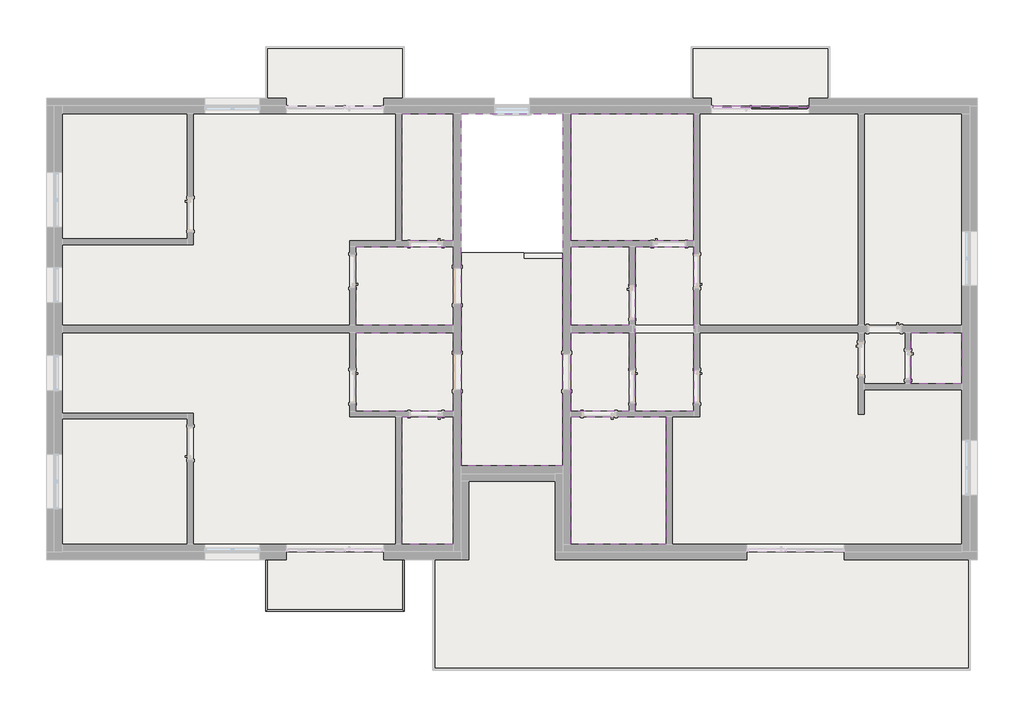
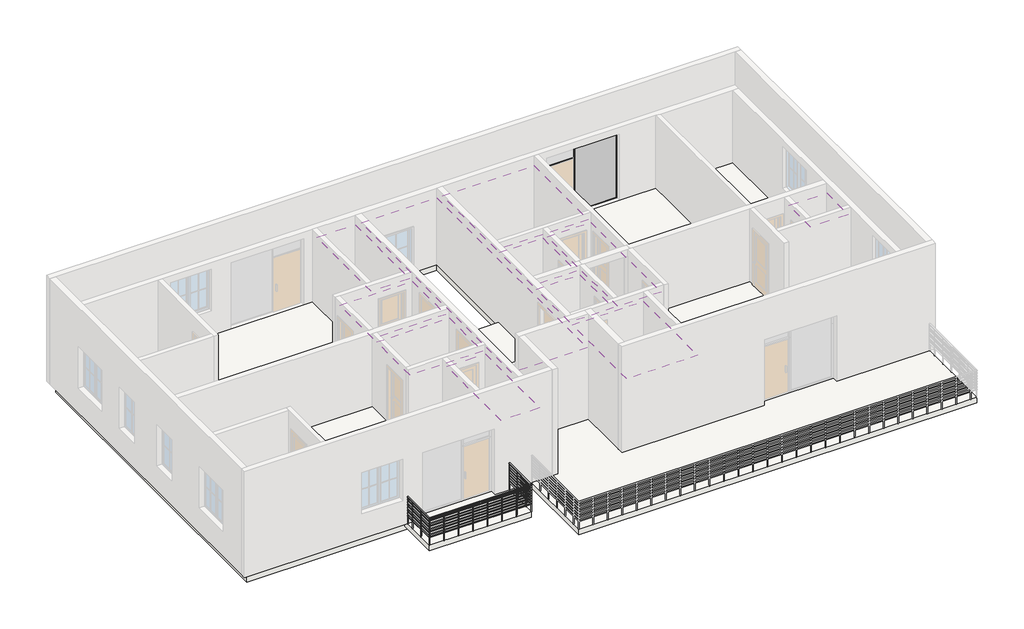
# One storey, part 3 of 6: 24 slabs, 11 coverings, 7 members, 1 plate, 1 railing.
"""IFC4 building model written with IfcOpenShell, lengths in millimetres."""

from ifc_helpers import new_model, si_unit, point, frame, frame_2d, origin, place, context, project, spatial, polyline, circle_curve, ellipse_curve, trimmed, segment, composite_curve, outline, extrude, transform, mapped, element, save
from ifc_brep_helpers import plane_surface, cylinder_surface, advanced_brep
from components import member_50x50_mm_0b25df5f, member_50x50_mm_d57dae31, member_50x50_mm_7f53e2b4, member_50x50_mm_58209b6d, member_50x50_mm_521fa47b, member_50x50_mm_0f4eb3cd, plate_9c89f185

model = new_model("IFC4")

# Units and contexts
model_context = context("Model", 3, world=origin())
ifc_project = project(units=[si_unit("LENGTHUNIT", "METRE", prefix="MILLI")], contexts=[model_context])

# Site, building, storey
site = spatial("IfcSite", under=ifc_project)
building = spatial("IfcBuilding", under=site)
storey = spatial("IfcBuildingStorey", under=building, Name="Podlaží 2", Elevation=3000.0)

# Coverings
placement = place(None, origin())
element("IfcCovering", 1, ObjectType="Mřížka 600 x 600mm", at=placement, inside=storey, context=model_context, shape_type="SweptSolid", body=[
    extrude(outline(polyline([(8675.0, 13500.0), (10000.0, 13500.0), (10000.0, 10250.0), (8675.0, 10250.0), (8675.0, 13500.0)])), frame((0.0, 0.0, 5300.0), z_axis=(0.0, 0.0, 1.0), x_axis=(1.0, 0.0, 0.0)), (0.0, 0.0, 1.0), 52.0),
])
element("IfcCovering", 2, ObjectType="Mřížka 600 x 600mm", at=placement, inside=storey, context=model_context, shape_type="SweptSolid", body=[
    extrude(outline(polyline([(7500.0, 10100.0), (10000.0, 10100.0), (10000.0, 8100.0), (7500.0, 8100.0), (7500.0, 10100.0)])), frame((0.0, 0.0, 5300.0), z_axis=(0.0, 0.0, 1.0), x_axis=(1.0, 0.0, 0.0)), (0.0, 0.0, 1.0), 52.0),
])
element("IfcCovering", 3, ObjectType="Mřížka 600 x 600mm", at=placement, inside=storey, context=model_context, shape_type="SweptSolid", body=[
    extrude(outline(polyline([(10000.0, 7900.0), (10000.0, 5900.0), (7500.0, 5900.0), (7500.0, 7900.0), (10000.0, 7900.0)])), frame((0.0, 0.0, 5300.0), z_axis=(0.0, 0.0, 1.0), x_axis=(1.0, 0.0, 0.0)), (0.0, 0.0, 1.0), 52.0),
])
element("IfcCovering", 4, ObjectType="Mřížka 600 x 600mm", at=placement, inside=storey, context=model_context, shape_type="SweptSolid", body=[
    extrude(outline(polyline([(8675.0, 5750.0), (10000.0, 5750.0), (10000.0, 2500.0), (8675.0, 2500.0), (8675.0, 5750.0)])), frame((0.0, 0.0, 5300.0), z_axis=(0.0, 0.0, 1.0), x_axis=(1.0, 0.0, 0.0)), (0.0, 0.0, 1.0), 52.0),
])
element("IfcCovering", 5, ObjectType="Mřížka 600 x 600mm", at=placement, inside=storey, context=model_context, shape_type="SweptSolid", body=[
    extrude(outline(polyline([(13000.0, 13500.0), (16150.0, 13500.0), (16150.0, 10250.0), (13000.0, 10250.0), (13000.0, 13500.0)])), frame((0.0, 0.0, 5300.0), z_axis=(0.0, 0.0, 1.0), x_axis=(1.0, 0.0, 0.0)), (0.0, 0.0, 1.0), 52.0),
])
element("IfcCovering", 6, ObjectType="Mřížka 600 x 600mm", at=placement, inside=storey, context=model_context, shape_type="SweptSolid", body=[
    extrude(outline(polyline([(14500.0, 8100.0), (13000.0, 8100.0), (13000.0, 10100.0), (14500.0, 10100.0), (14500.0, 8100.0)])), frame((0.0, 0.0, 5300.0), z_axis=(0.0, 0.0, 1.0), x_axis=(1.0, 0.0, 0.0)), (0.0, 0.0, 1.0), 52.0),
])
element("IfcCovering", 7, ObjectType="Mřížka 600 x 600mm", at=placement, inside=storey, context=model_context, shape_type="SweptSolid", body=[
    extrude(outline(polyline([(14500.0, 5900.0), (13000.0, 5900.0), (13000.0, 7900.0), (14500.0, 7900.0), (14500.0, 5900.0)])), frame((0.0, 0.0, 5300.0), z_axis=(0.0, 0.0, 1.0), x_axis=(1.0, 0.0, 0.0)), (0.0, 0.0, 1.0), 52.0),
])
element("IfcCovering", 8, ObjectType="Mřížka 600 x 600mm", at=placement, inside=storey, context=model_context, shape_type="SweptSolid", body=[
    extrude(outline(polyline([(15450.0, 2500.0), (13000.0, 2500.0), (13000.0, 5750.0), (15450.0, 5750.0), (15450.0, 2500.0)])), frame((0.0, 0.0, 5300.0), z_axis=(0.0, 0.0, 1.0), x_axis=(1.0, 0.0, 0.0)), (0.0, 0.0, 1.0), 52.0),
])
element("IfcCovering", 9, ObjectType="Mřížka 600 x 600mm", at=placement, inside=storey, context=model_context, shape_type="SweptSolid", body=[
    extrude(outline(polyline([(23000.0, 7900.0), (23000.0, 6600.0), (21700.0, 6600.0), (21700.0, 7900.0), (23000.0, 7900.0)])), frame((0.0, 0.0, 5300.0), z_axis=(0.0, 0.0, 1.0), x_axis=(1.0, 0.0, 0.0)), (0.0, 0.0, 1.0), 52.0),
])
element("IfcCovering", 10, ObjectType="Mřížka 600 x 600mm", at=placement, inside=storey, context=model_context, shape_type="SweptSolid", body=[
    extrude(outline(polyline([(10200.0, 4500.0), (10200.0, 13500.0), (12800.0, 13500.0), (12800.0, 4500.0), (10200.0, 4500.0)])), frame((0.0, 0.0, 5300.0), z_axis=(0.0, 0.0, 1.0), x_axis=(1.0, 0.0, 0.0)), (0.0, 0.0, 1.0), 52.0),
])
element("IfcCovering", 11, ObjectType="Mřížka 600 x 600mm", at=placement, inside=storey, context=model_context, shape_type="SweptSolid", body=[
    extrude(outline(polyline([(16150.0, 10100.0), (16150.0, 5900.0), (14650.0, 5900.0), (14650.0, 10100.0), (16150.0, 10100.0)])), frame((0.0, 0.0, 5300.0), z_axis=(0.0, 0.0, 1.0), x_axis=(1.0, 0.0, 0.0)), (0.0, 0.0, 1.0), 52.0),
])

# Members
member_50x50_mm_shape = member_50x50_mm_0b25df5f(model_context)
element("IfcMember", 12, ObjectType="Obdélníková příčel : 50x50 mm", at=placement, inside=storey, context=model_context, shape_type="MappedRepresentation", body=[
    mapped(member_50x50_mm_shape, transform((19050.0, 13675.0, 5400.0), x_axis=(0.0, 0.0, 1.0), y_axis=(0.0, -1.0, 0.0), z_axis=(1.0, 0.0, 0.0))),
])
member_50x50_mm_2_shape = member_50x50_mm_d57dae31(model_context)
element("IfcMember", 13, ObjectType="Obdélníková příčel : 50x50 mm", at=placement, inside=storey, context=model_context, shape_type="MappedRepresentation", body=[
    mapped(member_50x50_mm_2_shape, transform((17575.0, 13675.0, 5000.0), x_axis=(0.0, 0.0, 1.0), y_axis=(0.0, -1.0, 0.0), z_axis=(1.0, 0.0, 0.0))),
])
element("IfcMember", 14, ObjectType="Obdélníková příčel : 50x50 mm", at=placement, inside=storey, context=model_context, shape_type="MappedRepresentation", body=[
    mapped(member_50x50_mm_shape, transform((17625.0, 13675.0, 3000.0), x_axis=(0.0, 0.0, -1.0), y_axis=(0.0, -1.0, 0.0), z_axis=(-1.0, 0.0, 0.0))),
])
member_50x50_mm_3_shape = member_50x50_mm_7f53e2b4(model_context)
element("IfcMember", 15, ObjectType="Obdélníková příčel : 50x50 mm", at=placement, inside=storey, context=model_context, shape_type="MappedRepresentation", body=[
    mapped(member_50x50_mm_3_shape, transform((17575.0, 13675.0, 5400.0), x_axis=(0.0, 0.0, 1.0), y_axis=(0.0, -1.0, 0.0), z_axis=(1.0, 0.0, 0.0))),
])
member_50x50_mm_4_shape = member_50x50_mm_58209b6d(model_context)
element("IfcMember", 16, ObjectType="Obdélníková příčel : 50x50 mm", at=placement, inside=storey, context=model_context, shape_type="MappedRepresentation", body=[
    mapped(member_50x50_mm_4_shape, transform((17600.0, 13675.0, 5000.0), x_axis=(1.0, 0.0, 0.0), y_axis=(0.0, -1.0, 0.0), z_axis=(0.0, 0.0, -1.0))),
])
member_50x50_mm_5_shape = member_50x50_mm_521fa47b(model_context)
element("IfcMember", 17, ObjectType="Obdélníková příčel : 50x50 mm", at=placement, inside=storey, context=model_context, shape_type="MappedRepresentation", body=[
    mapped(member_50x50_mm_5_shape, transform((19100.0, 13675.0, 3000.0), x_axis=(1.0, 0.0, 0.0), y_axis=(0.0, -1.0, 0.0), z_axis=(0.0, 0.0, -1.0))),
])
member_50x50_mm_6_shape = member_50x50_mm_0f4eb3cd(model_context)
element("IfcMember", 18, ObjectType="Obdélníková příčel : 50x50 mm", at=placement, inside=storey, context=model_context, shape_type="MappedRepresentation", body=[
    mapped(member_50x50_mm_6_shape, transform((19100.0, 13675.0, 5000.0), x_axis=(1.0, 0.0, 0.0), y_axis=(0.0, -1.0, 0.0), z_axis=(0.0, 0.0, -1.0))),
])

# Plate
plate_shape = plate_9c89f185(model_context)
element("IfcPlate", 19, ObjectType="Systémový panel : Zasklené", at=placement, inside=storey, context=model_context, shape_type="MappedRepresentation", body=[
    mapped(plate_shape, transform((18337.5, 13675.0, 3050.0), x_axis=(1.0, 0.0, 0.0), y_axis=(0.0, 1.0, 0.0), z_axis=(0.0, 0.0, 1.0))),
])

# Railing
element("IfcRailing", 20, ObjectType="1000 mm trubky", at=placement, inside=storey, context=model_context, shape_type="SolidModel", body=[
    advanced_brep(
    [(8705.0, 2100.0, 3980.0), (8745.0, 2100.0, 3980.0), (8705.0, 820.0, 3980.0), (8745.0, 780.0, 3980.0), (5245.0, 820.0, 3980.0), (5205.0, 780.0, 3980.0), (5245.0, 2100.0, 3980.0), (5205.0, 2100.0, 3980.0)],
    [
        (0, 1, circle_curve(frame((8725.0, 2100.0, 3980.0), z_axis=(0.0, 1.0, 0.0), x_axis=(1.0, 0.0, 0.0)), 20.0)),
        (1, 0, circle_curve(frame((8725.0, 2100.0, 3980.0), z_axis=(0.0, 1.0, 0.0), x_axis=(1.0, 0.0, 0.0)), 20.0)),
        (0, 2),
        (2, 3, ellipse_curve(frame((8725.0, 800.0, 3980.0), z_axis=(0.7071067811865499, 0.7071067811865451, 0.0), x_axis=(-0.7071067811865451, 0.7071067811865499, 0.0)), 28.2842712, 20.0)),
        (3, 1),
        (3, 2, ellipse_curve(frame((8725.0, 800.0, 3980.0), z_axis=(0.7071067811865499, 0.7071067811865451, 0.0), x_axis=(-0.7071067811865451, 0.7071067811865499, 0.0)), 28.2842712, 20.0)),
        (2, 4),
        (4, 5, ellipse_curve(frame((5225.0, 800.0, 3980.0), z_axis=(0.7071067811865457, -0.7071067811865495, 0.0), x_axis=(0.7071067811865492, 0.7071067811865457, 0.0)), 28.2842712, 20.0)),
        (5, 3),
        (5, 4, ellipse_curve(frame((5225.0, 800.0, 3980.0), z_axis=(0.7071067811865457, -0.7071067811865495, 0.0), x_axis=(0.7071067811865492, 0.7071067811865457, 0.0)), 28.2842712, 20.0)),
        (6, 7, circle_curve(frame((5225.0, 2100.0, 3980.0), z_axis=(0.0, 1.0, 0.0), x_axis=(-1.0, 0.0, 0.0)), 20.0)),
        (7, 6, circle_curve(frame((5225.0, 2100.0, 3980.0), z_axis=(0.0, 1.0, 0.0), x_axis=(-1.0, 0.0, 0.0)), 20.0)),
        (4, 6),
        (7, 5),
    ],
    [
        plane_surface(frame((8725.0, 2100.0, 4000.0), z_axis=(0.0, 1.0, 0.0), x_axis=(0.0, 0.0, -1.0))),
        cylinder_surface(frame((8725.0, 2100.0, 3980.0), z_axis=(0.0, 1.0, 0.0), x_axis=(1.0, 0.0, 0.0)), 20.0),
        cylinder_surface(frame((8725.0, 800.0, 3980.0), z_axis=(1.0, 0.0, 0.0), x_axis=(0.0, -1.0, 0.0)), 20.0),
        plane_surface(frame((5225.0, 2100.0, 4000.0), z_axis=(0.0, 1.0, 0.0), x_axis=(0.0, 0.0, 1.0))),
        cylinder_surface(frame((5225.0, 800.0, 3980.0), z_axis=(0.0, -1.0, 0.0), x_axis=(-1.0, 0.0, 0.0)), 20.0),
    ],
    [
        (0, [[1, 2]]),
        (1, [[-1, 3, 4, 5]]),
        (1, [[-2, -5, 6, -3]]),
        (2, [[-4, 7, 8, 9]]),
        (2, [[-6, -9, 10, -7]]),
        (3, [[11, 12]]),
        (4, [[-8, 13, -12, 14]]),
        (4, [[-10, -14, -11, -13]]),
    ],
),
    advanced_brep(
    [(8710.0, 2100.0, 3885.0), (8740.0, 2100.0, 3885.0), (8740.0, 785.0, 3885.0), (8710.0, 815.0, 3885.0), (5210.0, 785.0, 3885.0), (5240.0, 815.0, 3885.0), (5240.0, 2100.0, 3885.0), (5210.0, 2100.0, 3885.0)],
    [
        (0, 1, circle_curve(frame((8725.0, 2100.0, 3885.0), z_axis=(0.0, 1.0, 0.0), x_axis=(1.0, 0.0, 0.0)), 15.0)),
        (1, 0, circle_curve(frame((8725.0, 2100.0, 3885.0), z_axis=(0.0, 1.0, 0.0), x_axis=(1.0, 0.0, 0.0)), 15.0)),
        (1, 2),
        (2, 3, ellipse_curve(frame((8725.0, 800.0, 3885.0), z_axis=(0.7071067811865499, 0.7071067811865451, 0.0), x_axis=(-0.7071067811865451, 0.7071067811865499, 0.0)), 21.2132034, 15.0)),
        (3, 0),
        (3, 2, ellipse_curve(frame((8725.0, 800.0, 3885.0), z_axis=(0.7071067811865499, 0.7071067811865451, 0.0), x_axis=(-0.7071067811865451, 0.7071067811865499, 0.0)), 21.2132034, 15.0)),
        (2, 4),
        (4, 5, ellipse_curve(frame((5225.0, 800.0, 3885.0), z_axis=(0.7071067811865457, -0.7071067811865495, 0.0), x_axis=(0.7071067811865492, 0.7071067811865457, 0.0)), 21.2132034, 15.0)),
        (5, 3),
        (5, 4, ellipse_curve(frame((5225.0, 800.0, 3885.0), z_axis=(0.7071067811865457, -0.7071067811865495, 0.0), x_axis=(0.7071067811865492, 0.7071067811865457, 0.0)), 21.2132034, 15.0)),
        (6, 7, circle_curve(frame((5225.0, 2100.0, 3885.0), z_axis=(0.0, 1.0, 0.0), x_axis=(-1.0, 0.0, 0.0)), 15.0)),
        (7, 6, circle_curve(frame((5225.0, 2100.0, 3885.0), z_axis=(0.0, 1.0, 0.0), x_axis=(-1.0, 0.0, 0.0)), 15.0)),
        (4, 7),
        (6, 5),
    ],
    [
        plane_surface(frame((8725.0, 2100.0, 3900.0), z_axis=(0.0, 1.0, 0.0), x_axis=(0.0, 0.0, -1.0))),
        cylinder_surface(frame((8725.0, 2100.0, 3885.0), z_axis=(0.0, 1.0, 0.0), x_axis=(1.0, 0.0, 0.0)), 15.0),
        cylinder_surface(frame((8725.0, 800.0, 3885.0), z_axis=(1.0, 0.0, 0.0), x_axis=(0.0, -1.0, 0.0)), 15.0),
        plane_surface(frame((5225.0, 2100.0, 3900.0), z_axis=(0.0, 1.0, 0.0), x_axis=(0.0, 0.0, 1.0))),
        cylinder_surface(frame((5225.0, 800.0, 3885.0), z_axis=(0.0, -1.0, 0.0), x_axis=(-1.0, 0.0, 0.0)), 15.0),
    ],
    [
        (0, [[1, 2]]),
        (1, [[-2, 3, 4, 5]]),
        (1, [[-1, -5, 6, -3]]),
        (2, [[-4, 7, 8, 9]]),
        (2, [[-6, -9, 10, -7]]),
        (3, [[11, 12]]),
        (4, [[-8, 13, -11, 14]]),
        (4, [[-10, -14, -12, -13]]),
    ],
),
    advanced_brep(
    [(8710.0, 2100.0, 3785.0), (8740.0, 2100.0, 3785.0), (8740.0, 785.0, 3785.0), (8710.0, 815.0, 3785.0), (5210.0, 785.0, 3785.0), (5240.0, 815.0, 3785.0), (5240.0, 2100.0, 3785.0), (5210.0, 2100.0, 3785.0)],
    [
        (0, 1, circle_curve(frame((8725.0, 2100.0, 3785.0), z_axis=(0.0, 1.0, 0.0), x_axis=(1.0, 0.0, 0.0)), 15.0)),
        (1, 0, circle_curve(frame((8725.0, 2100.0, 3785.0), z_axis=(0.0, 1.0, 0.0), x_axis=(1.0, 0.0, 0.0)), 15.0)),
        (1, 2),
        (2, 3, ellipse_curve(frame((8725.0, 800.0, 3785.0), z_axis=(0.7071067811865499, 0.7071067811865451, 0.0), x_axis=(-0.7071067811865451, 0.7071067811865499, 0.0)), 21.2132034, 15.0)),
        (3, 0),
        (3, 2, ellipse_curve(frame((8725.0, 800.0, 3785.0), z_axis=(0.7071067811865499, 0.7071067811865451, 0.0), x_axis=(-0.7071067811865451, 0.7071067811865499, 0.0)), 21.2132034, 15.0)),
        (2, 4),
        (4, 5, ellipse_curve(frame((5225.0, 800.0, 3785.0), z_axis=(0.7071067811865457, -0.7071067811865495, 0.0), x_axis=(0.7071067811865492, 0.7071067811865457, 0.0)), 21.2132034, 15.0)),
        (5, 3),
        (5, 4, ellipse_curve(frame((5225.0, 800.0, 3785.0), z_axis=(0.7071067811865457, -0.7071067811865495, 0.0), x_axis=(0.7071067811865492, 0.7071067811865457, 0.0)), 21.2132034, 15.0)),
        (6, 7, circle_curve(frame((5225.0, 2100.0, 3785.0), z_axis=(0.0, 1.0, 0.0), x_axis=(-1.0, 0.0, 0.0)), 15.0)),
        (7, 6, circle_curve(frame((5225.0, 2100.0, 3785.0), z_axis=(0.0, 1.0, 0.0), x_axis=(-1.0, 0.0, 0.0)), 15.0)),
        (4, 7),
        (6, 5),
    ],
    [
        plane_surface(frame((8725.0, 2100.0, 3800.0), z_axis=(0.0, 1.0, 0.0), x_axis=(0.0, 0.0, -1.0))),
        cylinder_surface(frame((8725.0, 2100.0, 3785.0), z_axis=(0.0, 1.0, 0.0), x_axis=(1.0, 0.0, 0.0)), 15.0),
        cylinder_surface(frame((8725.0, 800.0, 3785.0), z_axis=(1.0, 0.0, 0.0), x_axis=(0.0, -1.0, 0.0)), 15.0),
        plane_surface(frame((5225.0, 2100.0, 3800.0), z_axis=(0.0, 1.0, 0.0), x_axis=(0.0, 0.0, 1.0))),
        cylinder_surface(frame((5225.0, 800.0, 3785.0), z_axis=(0.0, -1.0, 0.0), x_axis=(-1.0, 0.0, 0.0)), 15.0),
    ],
    [
        (0, [[1, 2]]),
        (1, [[-2, 3, 4, 5]]),
        (1, [[-1, -5, 6, -3]]),
        (2, [[-4, 7, 8, 9]]),
        (2, [[-6, -9, 10, -7]]),
        (3, [[11, 12]]),
        (4, [[-8, 13, -11, 14]]),
        (4, [[-10, -14, -12, -13]]),
    ],
),
    advanced_brep(
    [(8710.0, 2100.0, 3685.0), (8740.0, 2100.0, 3685.0), (8740.0, 785.0, 3685.0), (8710.0, 815.0, 3685.0), (5210.0, 785.0, 3685.0), (5240.0, 815.0, 3685.0), (5240.0, 2100.0, 3685.0), (5210.0, 2100.0, 3685.0)],
    [
        (0, 1, circle_curve(frame((8725.0, 2100.0, 3685.0), z_axis=(0.0, 1.0, 0.0), x_axis=(1.0, 0.0, 0.0)), 15.0)),
        (1, 0, circle_curve(frame((8725.0, 2100.0, 3685.0), z_axis=(0.0, 1.0, 0.0), x_axis=(1.0, 0.0, 0.0)), 15.0)),
        (1, 2),
        (2, 3, ellipse_curve(frame((8725.0, 800.0, 3685.0), z_axis=(0.7071067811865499, 0.7071067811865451, 0.0), x_axis=(-0.7071067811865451, 0.7071067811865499, 0.0)), 21.2132034, 15.0)),
        (3, 0),
        (3, 2, ellipse_curve(frame((8725.0, 800.0, 3685.0), z_axis=(0.7071067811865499, 0.7071067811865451, 0.0), x_axis=(-0.7071067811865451, 0.7071067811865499, 0.0)), 21.2132034, 15.0)),
        (2, 4),
        (4, 5, ellipse_curve(frame((5225.0, 800.0, 3685.0), z_axis=(0.7071067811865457, -0.7071067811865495, 0.0), x_axis=(0.7071067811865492, 0.7071067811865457, 0.0)), 21.2132034, 15.0)),
        (5, 3),
        (5, 4, ellipse_curve(frame((5225.0, 800.0, 3685.0), z_axis=(0.7071067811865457, -0.7071067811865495, 0.0), x_axis=(0.7071067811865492, 0.7071067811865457, 0.0)), 21.2132034, 15.0)),
        (6, 7, circle_curve(frame((5225.0, 2100.0, 3685.0), z_axis=(0.0, 1.0, 0.0), x_axis=(-1.0, 0.0, 0.0)), 15.0)),
        (7, 6, circle_curve(frame((5225.0, 2100.0, 3685.0), z_axis=(0.0, 1.0, 0.0), x_axis=(-1.0, 0.0, 0.0)), 15.0)),
        (4, 7),
        (6, 5),
    ],
    [
        plane_surface(frame((8725.0, 2100.0, 3700.0), z_axis=(0.0, 1.0, 0.0), x_axis=(0.0, 0.0, -1.0))),
        cylinder_surface(frame((8725.0, 2100.0, 3685.0), z_axis=(0.0, 1.0, 0.0), x_axis=(1.0, 0.0, 0.0)), 15.0),
        cylinder_surface(frame((8725.0, 800.0, 3685.0), z_axis=(1.0, 0.0, 0.0), x_axis=(0.0, -1.0, 0.0)), 15.0),
        plane_surface(frame((5225.0, 2100.0, 3700.0), z_axis=(0.0, 1.0, 0.0), x_axis=(0.0, 0.0, 1.0))),
        cylinder_surface(frame((5225.0, 800.0, 3685.0), z_axis=(0.0, -1.0, 0.0), x_axis=(-1.0, 0.0, 0.0)), 15.0),
    ],
    [
        (0, [[1, 2]]),
        (1, [[-2, 3, 4, 5]]),
        (1, [[-1, -5, 6, -3]]),
        (2, [[-4, 7, 8, 9]]),
        (2, [[-6, -9, 10, -7]]),
        (3, [[11, 12]]),
        (4, [[-8, 13, -11, 14]]),
        (4, [[-10, -14, -12, -13]]),
    ],
),
    advanced_brep(
    [(8710.0, 2100.0, 3585.0), (8740.0, 2100.0, 3585.0), (8740.0, 785.0, 3585.0), (8710.0, 815.0, 3585.0), (5210.0, 785.0, 3585.0), (5240.0, 815.0, 3585.0), (5240.0, 2100.0, 3585.0), (5210.0, 2100.0, 3585.0)],
    [
        (0, 1, circle_curve(frame((8725.0, 2100.0, 3585.0), z_axis=(0.0, 1.0, 0.0), x_axis=(1.0, 0.0, 0.0)), 15.0)),
        (1, 0, circle_curve(frame((8725.0, 2100.0, 3585.0), z_axis=(0.0, 1.0, 0.0), x_axis=(1.0, 0.0, 0.0)), 15.0)),
        (1, 2),
        (2, 3, ellipse_curve(frame((8725.0, 800.0, 3585.0), z_axis=(0.7071067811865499, 0.7071067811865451, 0.0), x_axis=(-0.7071067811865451, 0.7071067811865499, 0.0)), 21.2132034, 15.0)),
        (3, 0),
        (3, 2, ellipse_curve(frame((8725.0, 800.0, 3585.0), z_axis=(0.7071067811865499, 0.7071067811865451, 0.0), x_axis=(-0.7071067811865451, 0.7071067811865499, 0.0)), 21.2132034, 15.0)),
        (2, 4),
        (4, 5, ellipse_curve(frame((5225.0, 800.0, 3585.0), z_axis=(0.7071067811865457, -0.7071067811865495, 0.0), x_axis=(0.7071067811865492, 0.7071067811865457, 0.0)), 21.2132034, 15.0)),
        (5, 3),
        (5, 4, ellipse_curve(frame((5225.0, 800.0, 3585.0), z_axis=(0.7071067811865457, -0.7071067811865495, 0.0), x_axis=(0.7071067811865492, 0.7071067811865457, 0.0)), 21.2132034, 15.0)),
        (6, 7, circle_curve(frame((5225.0, 2100.0, 3585.0), z_axis=(0.0, 1.0, 0.0), x_axis=(-1.0, 0.0, 0.0)), 15.0)),
        (7, 6, circle_curve(frame((5225.0, 2100.0, 3585.0), z_axis=(0.0, 1.0, 0.0), x_axis=(-1.0, 0.0, 0.0)), 15.0)),
        (4, 7),
        (6, 5),
    ],
    [
        plane_surface(frame((8725.0, 2100.0, 3600.0), z_axis=(0.0, 1.0, 0.0), x_axis=(0.0, 0.0, -1.0))),
        cylinder_surface(frame((8725.0, 2100.0, 3585.0), z_axis=(0.0, 1.0, 0.0), x_axis=(1.0, 0.0, 0.0)), 15.0),
        cylinder_surface(frame((8725.0, 800.0, 3585.0), z_axis=(1.0, 0.0, 0.0), x_axis=(0.0, -1.0, 0.0)), 15.0),
        plane_surface(frame((5225.0, 2100.0, 3600.0), z_axis=(0.0, 1.0, 0.0), x_axis=(0.0, 0.0, 1.0))),
        cylinder_surface(frame((5225.0, 800.0, 3585.0), z_axis=(0.0, -1.0, 0.0), x_axis=(-1.0, 0.0, 0.0)), 15.0),
    ],
    [
        (0, [[1, 2]]),
        (1, [[-2, 3, 4, 5]]),
        (1, [[-1, -5, 6, -3]]),
        (2, [[-4, 7, 8, 9]]),
        (2, [[-6, -9, 10, -7]]),
        (3, [[11, 12]]),
        (4, [[-8, 13, -11, 14]]),
        (4, [[-10, -14, -12, -13]]),
    ],
),
    advanced_brep(
    [(8710.0, 2100.0, 3485.0), (8740.0, 2100.0, 3485.0), (8740.0, 785.0, 3485.0), (8710.0, 815.0, 3485.0), (5210.0, 785.0, 3485.0), (5240.0, 815.0, 3485.0), (5240.0, 2100.0, 3485.0), (5210.0, 2100.0, 3485.0)],
    [
        (0, 1, circle_curve(frame((8725.0, 2100.0, 3485.0), z_axis=(0.0, 1.0, 0.0), x_axis=(1.0, 0.0, 0.0)), 15.0)),
        (1, 0, circle_curve(frame((8725.0, 2100.0, 3485.0), z_axis=(0.0, 1.0, 0.0), x_axis=(1.0, 0.0, 0.0)), 15.0)),
        (1, 2),
        (2, 3, ellipse_curve(frame((8725.0, 800.0, 3485.0), z_axis=(0.7071067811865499, 0.7071067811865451, 0.0), x_axis=(-0.7071067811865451, 0.7071067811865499, 0.0)), 21.2132034, 15.0)),
        (3, 0),
        (3, 2, ellipse_curve(frame((8725.0, 800.0, 3485.0), z_axis=(0.7071067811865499, 0.7071067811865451, 0.0), x_axis=(-0.7071067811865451, 0.7071067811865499, 0.0)), 21.2132034, 15.0)),
        (2, 4),
        (4, 5, ellipse_curve(frame((5225.0, 800.0, 3485.0), z_axis=(0.7071067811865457, -0.7071067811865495, 0.0), x_axis=(0.7071067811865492, 0.7071067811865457, 0.0)), 21.2132034, 15.0)),
        (5, 3),
        (5, 4, ellipse_curve(frame((5225.0, 800.0, 3485.0), z_axis=(0.7071067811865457, -0.7071067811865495, 0.0), x_axis=(0.7071067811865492, 0.7071067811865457, 0.0)), 21.2132034, 15.0)),
        (6, 7, circle_curve(frame((5225.0, 2100.0, 3485.0), z_axis=(0.0, 1.0, 0.0), x_axis=(-1.0, 0.0, 0.0)), 15.0)),
        (7, 6, circle_curve(frame((5225.0, 2100.0, 3485.0), z_axis=(0.0, 1.0, 0.0), x_axis=(-1.0, 0.0, 0.0)), 15.0)),
        (4, 7),
        (6, 5),
    ],
    [
        plane_surface(frame((8725.0, 2100.0, 3500.0), z_axis=(0.0, 1.0, 0.0), x_axis=(0.0, 0.0, -1.0))),
        cylinder_surface(frame((8725.0, 2100.0, 3485.0), z_axis=(0.0, 1.0, 0.0), x_axis=(1.0, 0.0, 0.0)), 15.0),
        cylinder_surface(frame((8725.0, 800.0, 3485.0), z_axis=(1.0, 0.0, 0.0), x_axis=(0.0, -1.0, 0.0)), 15.0),
        plane_surface(frame((5225.0, 2100.0, 3500.0), z_axis=(0.0, 1.0, 0.0), x_axis=(0.0, 0.0, 1.0))),
        cylinder_surface(frame((5225.0, 800.0, 3485.0), z_axis=(0.0, -1.0, 0.0), x_axis=(-1.0, 0.0, 0.0)), 15.0),
    ],
    [
        (0, [[1, 2]]),
        (1, [[-2, 3, 4, 5]]),
        (1, [[-1, -5, 6, -3]]),
        (2, [[-4, 7, 8, 9]]),
        (2, [[-6, -9, 10, -7]]),
        (3, [[11, 12]]),
        (4, [[-8, 13, -11, 14]]),
        (4, [[-10, -14, -12, -13]]),
    ],
),
    advanced_brep(
    [(8710.0, 2100.0, 3385.0), (8740.0, 2100.0, 3385.0), (8740.0, 785.0, 3385.0), (8710.0, 815.0, 3385.0), (5210.0, 785.0, 3385.0), (5240.0, 815.0, 3385.0), (5240.0, 2100.0, 3385.0), (5210.0, 2100.0, 3385.0)],
    [
        (0, 1, circle_curve(frame((8725.0, 2100.0, 3385.0), z_axis=(0.0, 1.0, 0.0), x_axis=(1.0, 0.0, 0.0)), 15.0)),
        (1, 0, circle_curve(frame((8725.0, 2100.0, 3385.0), z_axis=(0.0, 1.0, 0.0), x_axis=(1.0, 0.0, 0.0)), 15.0)),
        (1, 2),
        (2, 3, ellipse_curve(frame((8725.0, 800.0, 3385.0), z_axis=(0.7071067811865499, 0.7071067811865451, 0.0), x_axis=(-0.7071067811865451, 0.7071067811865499, 0.0)), 21.2132034, 15.0)),
        (3, 0),
        (3, 2, ellipse_curve(frame((8725.0, 800.0, 3385.0), z_axis=(0.7071067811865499, 0.7071067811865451, 0.0), x_axis=(-0.7071067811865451, 0.7071067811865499, 0.0)), 21.2132034, 15.0)),
        (2, 4),
        (4, 5, ellipse_curve(frame((5225.0, 800.0, 3385.0), z_axis=(0.7071067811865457, -0.7071067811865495, 0.0), x_axis=(0.7071067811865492, 0.7071067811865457, 0.0)), 21.2132034, 15.0)),
        (5, 3),
        (5, 4, ellipse_curve(frame((5225.0, 800.0, 3385.0), z_axis=(0.7071067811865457, -0.7071067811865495, 0.0), x_axis=(0.7071067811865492, 0.7071067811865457, 0.0)), 21.2132034, 15.0)),
        (6, 7, circle_curve(frame((5225.0, 2100.0, 3385.0), z_axis=(0.0, 1.0, 0.0), x_axis=(-1.0, 0.0, 0.0)), 15.0)),
        (7, 6, circle_curve(frame((5225.0, 2100.0, 3385.0), z_axis=(0.0, 1.0, 0.0), x_axis=(-1.0, 0.0, 0.0)), 15.0)),
        (4, 7),
        (6, 5),
    ],
    [
        plane_surface(frame((8725.0, 2100.0, 3400.0), z_axis=(0.0, 1.0, 0.0), x_axis=(0.0, 0.0, -1.0))),
        cylinder_surface(frame((8725.0, 2100.0, 3385.0), z_axis=(0.0, 1.0, 0.0), x_axis=(1.0, 0.0, 0.0)), 15.0),
        cylinder_surface(frame((8725.0, 800.0, 3385.0), z_axis=(1.0, 0.0, 0.0), x_axis=(0.0, -1.0, 0.0)), 15.0),
        plane_surface(frame((5225.0, 2100.0, 3400.0), z_axis=(0.0, 1.0, 0.0), x_axis=(0.0, 0.0, 1.0))),
        cylinder_surface(frame((5225.0, 800.0, 3385.0), z_axis=(0.0, -1.0, 0.0), x_axis=(-1.0, 0.0, 0.0)), 15.0),
    ],
    [
        (0, [[1, 2]]),
        (1, [[-2, 3, 4, 5]]),
        (1, [[-1, -5, 6, -3]]),
        (2, [[-4, 7, 8, 9]]),
        (2, [[-6, -9, 10, -7]]),
        (3, [[11, 12]]),
        (4, [[-8, 13, -11, 14]]),
        (4, [[-10, -14, -12, -13]]),
    ],
),
    advanced_brep(
    [(8710.0, 2100.0, 3285.0), (8740.0, 2100.0, 3285.0), (8740.0, 785.0, 3285.0), (8710.0, 815.0, 3285.0), (5210.0, 785.0, 3285.0), (5240.0, 815.0, 3285.0), (5240.0, 2100.0, 3285.0), (5210.0, 2100.0, 3285.0)],
    [
        (0, 1, circle_curve(frame((8725.0, 2100.0, 3285.0), z_axis=(0.0, 1.0, 0.0), x_axis=(1.0, 0.0, 0.0)), 15.0)),
        (1, 0, circle_curve(frame((8725.0, 2100.0, 3285.0), z_axis=(0.0, 1.0, 0.0), x_axis=(1.0, 0.0, 0.0)), 15.0)),
        (1, 2),
        (2, 3, ellipse_curve(frame((8725.0, 800.0, 3285.0), z_axis=(0.7071067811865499, 0.7071067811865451, 0.0), x_axis=(-0.7071067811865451, 0.7071067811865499, 0.0)), 21.2132034, 15.0)),
        (3, 0),
        (3, 2, ellipse_curve(frame((8725.0, 800.0, 3285.0), z_axis=(0.7071067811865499, 0.7071067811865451, 0.0), x_axis=(-0.7071067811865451, 0.7071067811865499, 0.0)), 21.2132034, 15.0)),
        (2, 4),
        (4, 5, ellipse_curve(frame((5225.0, 800.0, 3285.0), z_axis=(0.7071067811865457, -0.7071067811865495, 0.0), x_axis=(0.7071067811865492, 0.7071067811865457, 0.0)), 21.2132034, 15.0)),
        (5, 3),
        (5, 4, ellipse_curve(frame((5225.0, 800.0, 3285.0), z_axis=(0.7071067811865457, -0.7071067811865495, 0.0), x_axis=(0.7071067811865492, 0.7071067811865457, 0.0)), 21.2132034, 15.0)),
        (6, 7, circle_curve(frame((5225.0, 2100.0, 3285.0), z_axis=(0.0, 1.0, 0.0), x_axis=(-1.0, 0.0, 0.0)), 15.0)),
        (7, 6, circle_curve(frame((5225.0, 2100.0, 3285.0), z_axis=(0.0, 1.0, 0.0), x_axis=(-1.0, 0.0, 0.0)), 15.0)),
        (4, 7),
        (6, 5),
    ],
    [
        plane_surface(frame((8725.0, 2100.0, 3300.0), z_axis=(0.0, 1.0, 0.0), x_axis=(0.0, 0.0, -1.0))),
        cylinder_surface(frame((8725.0, 2100.0, 3285.0), z_axis=(0.0, 1.0, 0.0), x_axis=(1.0, 0.0, 0.0)), 15.0),
        cylinder_surface(frame((8725.0, 800.0, 3285.0), z_axis=(1.0, 0.0, 0.0), x_axis=(0.0, -1.0, 0.0)), 15.0),
        plane_surface(frame((5225.0, 2100.0, 3300.0), z_axis=(0.0, 1.0, 0.0), x_axis=(0.0, 0.0, 1.0))),
        cylinder_surface(frame((5225.0, 800.0, 3285.0), z_axis=(0.0, -1.0, 0.0), x_axis=(-1.0, 0.0, 0.0)), 15.0),
    ],
    [
        (0, [[1, 2]]),
        (1, [[-2, 3, 4, 5]]),
        (1, [[-1, -5, 6, -3]]),
        (2, [[-4, 7, 8, 9]]),
        (2, [[-6, -9, 10, -7]]),
        (3, [[11, 12]]),
        (4, [[-8, 13, -11, 14]]),
        (4, [[-10, -14, -12, -13]]),
    ],
),
    extrude(outline(composite_curve([segment(trimmed(circle_curve(frame_2d((5225.0, 1800.0)), 12.5), [point((5237.5, 1800.0))], [point((5212.5, 1800.0))], False, "CARTESIAN"), True, "CONTINUOUS"), segment(trimmed(circle_curve(frame_2d((5225.0, 1800.0)), 12.5), [point((5212.5, 1800.0))], [point((5237.5, 1800.0))], False, "CARTESIAN"), True, "CONTINUOUS")], self_intersect=False)), frame((0.0, 0.0, 3000.0), z_axis=(0.0, 0.0, 1.0), x_axis=(1.0, 0.0, 0.0)), (0.0, 0.0, 1.0), 960.0),
    extrude(outline(composite_curve([segment(trimmed(circle_curve(frame_2d((5225.0, 1300.0)), 12.5), [point((5237.5, 1300.0))], [point((5212.5, 1300.0))], False, "CARTESIAN"), True, "CONTINUOUS"), segment(trimmed(circle_curve(frame_2d((5225.0, 1300.0)), 12.5), [point((5212.5, 1300.0))], [point((5237.5, 1300.0))], False, "CARTESIAN"), True, "CONTINUOUS")], self_intersect=False)), frame((0.0, 0.0, 3000.0), z_axis=(0.0, 0.0, 1.0), x_axis=(1.0, 0.0, 0.0)), (0.0, 0.0, 1.0), 960.0),
    extrude(outline(composite_curve([segment(trimmed(circle_curve(frame_2d((5725.0, 800.0)), 12.5), [point((5725.0, 812.5))], [point((5725.0, 787.5))], False, "CARTESIAN"), True, "CONTINUOUS"), segment(trimmed(circle_curve(frame_2d((5725.0, 800.0)), 12.5), [point((5725.0, 787.5))], [point((5725.0, 812.5))], False, "CARTESIAN"), True, "CONTINUOUS")], self_intersect=False)), frame((0.0, 0.0, 3000.0), z_axis=(0.0, 0.0, 1.0), x_axis=(1.0, 0.0, 0.0)), (0.0, 0.0, 1.0), 960.0),
    extrude(outline(composite_curve([segment(trimmed(circle_curve(frame_2d((6225.0, 800.0)), 12.5), [point((6225.0, 812.5))], [point((6225.0, 787.5))], False, "CARTESIAN"), True, "CONTINUOUS"), segment(trimmed(circle_curve(frame_2d((6225.0, 800.0)), 12.5), [point((6225.0, 787.5))], [point((6225.0, 812.5))], False, "CARTESIAN"), True, "CONTINUOUS")], self_intersect=False)), frame((0.0, 0.0, 3000.0), z_axis=(0.0, 0.0, 1.0), x_axis=(1.0, 0.0, 0.0)), (0.0, 0.0, 1.0), 960.0),
    extrude(outline(composite_curve([segment(trimmed(circle_curve(frame_2d((6725.0, 800.0)), 12.5), [point((6725.0, 812.5))], [point((6725.0, 787.5))], False, "CARTESIAN"), True, "CONTINUOUS"), segment(trimmed(circle_curve(frame_2d((6725.0, 800.0)), 12.5), [point((6725.0, 787.5))], [point((6725.0, 812.5))], False, "CARTESIAN"), True, "CONTINUOUS")], self_intersect=False)), frame((0.0, 0.0, 3000.0), z_axis=(0.0, 0.0, 1.0), x_axis=(1.0, 0.0, 0.0)), (0.0, 0.0, 1.0), 960.0),
    extrude(outline(composite_curve([segment(trimmed(circle_curve(frame_2d((7225.0, 800.0)), 12.5), [point((7225.0, 812.5))], [point((7225.0, 787.5))], False, "CARTESIAN"), True, "CONTINUOUS"), segment(trimmed(circle_curve(frame_2d((7225.0, 800.0)), 12.5), [point((7225.0, 787.5))], [point((7225.0, 812.5))], False, "CARTESIAN"), True, "CONTINUOUS")], self_intersect=False)), frame((0.0, 0.0, 3000.0), z_axis=(0.0, 0.0, 1.0), x_axis=(1.0, 0.0, 0.0)), (0.0, 0.0, 1.0), 960.0),
    extrude(outline(composite_curve([segment(trimmed(circle_curve(frame_2d((7725.0, 800.0)), 12.5), [point((7725.0, 812.5))], [point((7725.0, 787.5))], False, "CARTESIAN"), True, "CONTINUOUS"), segment(trimmed(circle_curve(frame_2d((7725.0, 800.0)), 12.5), [point((7725.0, 787.5))], [point((7725.0, 812.5))], False, "CARTESIAN"), True, "CONTINUOUS")], self_intersect=False)), frame((0.0, 0.0, 3000.0), z_axis=(0.0, 0.0, 1.0), x_axis=(1.0, 0.0, 0.0)), (0.0, 0.0, 1.0), 960.0),
    extrude(outline(composite_curve([segment(trimmed(circle_curve(frame_2d((8225.0, 800.0)), 12.5), [point((8225.0, 812.5))], [point((8225.0, 787.5))], False, "CARTESIAN"), True, "CONTINUOUS"), segment(trimmed(circle_curve(frame_2d((8225.0, 800.0)), 12.5), [point((8225.0, 787.5))], [point((8225.0, 812.5))], False, "CARTESIAN"), True, "CONTINUOUS")], self_intersect=False)), frame((0.0, 0.0, 3000.0), z_axis=(0.0, 0.0, 1.0), x_axis=(1.0, 0.0, 0.0)), (0.0, 0.0, 1.0), 960.0),
    extrude(outline(composite_curve([segment(trimmed(circle_curve(frame_2d((8725.0, 1100.0)), 12.5), [point((8712.5, 1100.0))], [point((8737.5, 1100.0))], False, "CARTESIAN"), True, "CONTINUOUS"), segment(trimmed(circle_curve(frame_2d((8725.0, 1100.0)), 12.5), [point((8737.5, 1100.0))], [point((8712.5, 1100.0))], False, "CARTESIAN"), True, "CONTINUOUS")], self_intersect=False)), frame((0.0, 0.0, 3000.0), z_axis=(0.0, 0.0, 1.0), x_axis=(1.0, 0.0, 0.0)), (0.0, 0.0, 1.0), 960.0),
    extrude(outline(composite_curve([segment(trimmed(circle_curve(frame_2d((8725.0, 1600.0)), 12.5), [point((8712.5, 1600.0))], [point((8737.5, 1600.0))], False, "CARTESIAN"), True, "CONTINUOUS"), segment(trimmed(circle_curve(frame_2d((8725.0, 1600.0)), 12.5), [point((8737.5, 1600.0))], [point((8712.5, 1600.0))], False, "CARTESIAN"), True, "CONTINUOUS")], self_intersect=False)), frame((0.0, 0.0, 3000.0), z_axis=(0.0, 0.0, 1.0), x_axis=(1.0, 0.0, 0.0)), (0.0, 0.0, 1.0), 960.0),
    extrude(outline(composite_curve([segment(trimmed(circle_curve(frame_2d((5225.0, 800.0)), 12.5), [point((5225.0, 812.5))], [point((5225.0, 787.5))], False, "CARTESIAN"), True, "CONTINUOUS"), segment(trimmed(circle_curve(frame_2d((5225.0, 800.0)), 12.5), [point((5225.0, 787.5))], [point((5225.0, 812.5))], False, "CARTESIAN"), True, "CONTINUOUS")], self_intersect=False)), frame((0.0, 0.0, 3000.0), z_axis=(0.0, 0.0, 1.0), x_axis=(1.0, 0.0, 0.0)), (0.0, 0.0, 1.0), 960.0),
    extrude(outline(composite_curve([segment(trimmed(circle_curve(frame_2d((8725.0, 800.0)), 12.5), [point((8712.5, 800.0))], [point((8737.5, 800.0))], False, "CARTESIAN"), True, "CONTINUOUS"), segment(trimmed(circle_curve(frame_2d((8725.0, 800.0)), 12.5), [point((8737.5, 800.0))], [point((8712.5, 800.0))], False, "CARTESIAN"), True, "CONTINUOUS")], self_intersect=False)), frame((0.0, 0.0, 3000.0), z_axis=(0.0, 0.0, 1.0), x_axis=(1.0, 0.0, 0.0)), (0.0, 0.0, 1.0), 960.0),
    extrude(outline(composite_curve([segment(trimmed(circle_curve(frame_2d((5225.0, 2087.5)), 12.5), [point((5237.5, 2087.5))], [point((5212.5, 2087.5))], False, "CARTESIAN"), True, "CONTINUOUS"), segment(trimmed(circle_curve(frame_2d((5225.0, 2087.5)), 12.5), [point((5212.5, 2087.5))], [point((5237.5, 2087.5))], False, "CARTESIAN"), True, "CONTINUOUS")], self_intersect=False)), frame((0.0, 0.0, 3000.0), z_axis=(0.0, 0.0, 1.0), x_axis=(1.0, 0.0, 0.0)), (0.0, 0.0, 1.0), 960.0),
    extrude(outline(composite_curve([segment(trimmed(circle_curve(frame_2d((8725.0, 2087.5)), 12.5), [point((8712.5, 2087.5))], [point((8737.5, 2087.5))], False, "CARTESIAN"), True, "CONTINUOUS"), segment(trimmed(circle_curve(frame_2d((8725.0, 2087.5)), 12.5), [point((8737.5, 2087.5))], [point((8712.5, 2087.5))], False, "CARTESIAN"), True, "CONTINUOUS")], self_intersect=False)), frame((0.0, 0.0, 3000.0), z_axis=(0.0, 0.0, 1.0), x_axis=(1.0, 0.0, 0.0)), (0.0, 0.0, 1.0), 960.0),
])

# Slabs
element("IfcSlab", 21, ObjectType="Železobeton 200 mm", at=placement, inside=storey, context=model_context, shape_type="SweptSolid", body=[
    extrude(outline(polyline([(23200.0, 13700.0), (23200.0, 2300.0), (12800.0, 2300.0), (12800.0, 4300.0), (10200.0, 4300.0), (10200.0, 2300.0), (-200.0, 2300.0), (-200.0, 13700.0), (23200.0, 13700.0)]), holes=[polyline([(12800.0, 13500.0), (10200.0, 13500.0), (10200.0, 9950.0), (12800.0, 9950.0), (12800.0, 13500.0)])]), frame((0.0, 0.0, 2650.0), z_axis=(0.0, 0.0, 1.0), x_axis=(1.0, 0.0, 0.0)), (0.0, 0.0, 1.0), 200.0),
])
element("IfcSlab", 22, ObjectType="Obecné 150mm", at=placement, inside=storey, context=model_context, shape_type="SweptSolid", body=[
    extrude(outline(polyline([(3200.0, 13500.0), (3200.0, 10300.0), (0.0, 10300.0), (0.0, 13500.0), (3200.0, 13500.0)])), frame((0.0, 0.0, 2850.0), z_axis=(0.0, 0.0, 1.0), x_axis=(1.0, 0.0, 0.0)), (0.0, 0.0, 1.0), 150.0),
])
element("IfcSlab", 23, ObjectType="Obecné 150mm", at=placement, inside=storey, context=model_context, shape_type="SweptSolid", body=[
    extrude(outline(polyline([(8675.0, 13500.0), (10000.0, 13500.0), (10000.0, 10250.0), (8675.0, 10250.0), (8675.0, 13500.0)])), frame((0.0, 0.0, 2850.0), z_axis=(0.0, 0.0, 1.0), x_axis=(1.0, 0.0, 0.0)), (0.0, 0.0, 1.0), 150.0),
])
element("IfcSlab", 24, ObjectType="Obecné 150mm", at=placement, inside=storey, context=model_context, shape_type="SweptSolid", body=[
    extrude(outline(polyline([(7500.0, 10100.0), (10000.0, 10100.0), (10000.0, 8100.0), (7500.0, 8100.0), (7500.0, 10100.0)])), frame((0.0, 0.0, 2850.0), z_axis=(0.0, 0.0, 1.0), x_axis=(1.0, 0.0, 0.0)), (0.0, 0.0, 1.0), 150.0),
])
element("IfcSlab", 25, ObjectType="Obecné 150mm", at=placement, inside=storey, context=model_context, shape_type="SweptSolid", body=[
    extrude(outline(polyline([(8525.0, 10250.0), (7350.0, 10250.0), (7350.0, 8100.0), (0.0, 8100.0), (0.0, 10150.0), (3350.0, 10150.0), (3350.0, 13500.0), (8525.0, 13500.0), (8525.0, 10250.0)])), frame((0.0, 0.0, 2850.0), z_axis=(0.0, 0.0, 1.0), x_axis=(1.0, 0.0, 0.0)), (0.0, 0.0, 1.0), 150.0),
])
element("IfcSlab", 26, ObjectType="Obecné 150mm", at=placement, inside=storey, context=model_context, shape_type="SweptSolid", body=[
    extrude(outline(polyline([(3200.0, 2500.0), (0.0, 2500.0), (0.0, 5700.0), (3200.0, 5700.0), (3200.0, 2500.0)])), frame((0.0, 0.0, 2850.0), z_axis=(0.0, 0.0, 1.0), x_axis=(1.0, 0.0, 0.0)), (0.0, 0.0, 1.0), 150.0),
])
element("IfcSlab", 27, ObjectType="Obecné 150mm", at=placement, inside=storey, context=model_context, shape_type="SweptSolid", body=[
    extrude(outline(polyline([(8675.0, 2500.0), (8675.0, 5750.0), (10000.0, 5750.0), (10000.0, 2500.0), (8675.0, 2500.0)])), frame((0.0, 0.0, 2850.0), z_axis=(0.0, 0.0, 1.0), x_axis=(1.0, 0.0, 0.0)), (0.0, 0.0, 1.0), 150.0),
])
element("IfcSlab", 28, ObjectType="Obecné 150mm", at=placement, inside=storey, context=model_context, shape_type="SweptSolid", body=[
    extrude(outline(polyline([(7500.0, 5900.0), (7500.0, 7900.0), (10000.0, 7900.0), (10000.0, 5900.0), (7500.0, 5900.0)])), frame((0.0, 0.0, 2850.0), z_axis=(0.0, 0.0, 1.0), x_axis=(1.0, 0.0, 0.0)), (0.0, 0.0, 1.0), 150.0),
])
element("IfcSlab", 29, ObjectType="Obecné 150mm", at=placement, inside=storey, context=model_context, shape_type="SweptSolid", body=[
    extrude(outline(polyline([(8525.0, 5750.0), (8525.0, 2500.0), (3350.0, 2500.0), (3350.0, 5850.0), (0.0, 5850.0), (0.0, 7900.0), (7350.0, 7900.0), (7350.0, 5750.0), (8525.0, 5750.0)])), frame((0.0, 0.0, 2850.0), z_axis=(0.0, 0.0, 1.0), x_axis=(1.0, 0.0, 0.0)), (0.0, 0.0, 1.0), 150.0),
])
element("IfcSlab", 30, ObjectType="Obecné 150mm", at=placement, inside=storey, context=model_context, shape_type="SweptSolid", body=[
    extrude(outline(polyline([(10200.0, 9950.0), (11800.0, 9950.0), (11800.0, 9800.0), (12800.0, 9800.0), (12800.0, 4500.0), (10200.0, 4500.0), (10200.0, 9950.0)])), frame((0.0, 0.0, 2850.0), z_axis=(0.0, 0.0, 1.0), x_axis=(1.0, 0.0, 0.0)), (0.0, 0.0, 1.0), 150.0),
])
element("IfcSlab", 31, ObjectType="Obecné 150mm", at=placement, inside=storey, context=model_context, shape_type="SweptSolid", body=[
    extrude(outline(polyline([(16150.0, 13500.0), (16150.0, 10250.0), (13000.0, 10250.0), (13000.0, 13500.0), (16150.0, 13500.0)])), frame((0.0, 0.0, 2850.0), z_axis=(0.0, 0.0, 1.0), x_axis=(1.0, 0.0, 0.0)), (0.0, 0.0, 1.0), 150.0),
])
element("IfcSlab", 32, ObjectType="Obecné 150mm", at=placement, inside=storey, context=model_context, shape_type="SweptSolid", body=[
    extrude(outline(polyline([(14500.0, 10100.0), (14500.0, 8100.0), (13000.0, 8100.0), (13000.0, 10100.0), (14500.0, 10100.0)])), frame((0.0, 0.0, 2850.0), z_axis=(0.0, 0.0, 1.0), x_axis=(1.0, 0.0, 0.0)), (0.0, 0.0, 1.0), 150.0),
])
element("IfcSlab", 33, ObjectType="Obecné 150mm", at=placement, inside=storey, context=model_context, shape_type="SweptSolid", body=[
    extrude(outline(polyline([(16150.0, 10100.0), (16150.0, 5900.0), (14650.0, 5900.0), (14650.0, 10100.0), (16150.0, 10100.0)])), frame((0.0, 0.0, 2850.0), z_axis=(0.0, 0.0, 1.0), x_axis=(1.0, 0.0, 0.0)), (0.0, 0.0, 1.0), 150.0),
])
element("IfcSlab", 34, ObjectType="Obecné 150mm", at=placement, inside=storey, context=model_context, shape_type="SweptSolid", body=[
    extrude(outline(polyline([(14500.0, 7900.0), (14500.0, 5900.0), (13000.0, 5900.0), (13000.0, 7900.0), (14500.0, 7900.0)])), frame((0.0, 0.0, 2850.0), z_axis=(0.0, 0.0, 1.0), x_axis=(1.0, 0.0, 0.0)), (0.0, 0.0, 1.0), 150.0),
])
element("IfcSlab", 35, ObjectType="Obecné 150mm", at=placement, inside=storey, context=model_context, shape_type="SweptSolid", body=[
    extrude(outline(polyline([(15450.0, 5750.0), (15450.0, 2500.0), (13000.0, 2500.0), (13000.0, 5750.0), (15450.0, 5750.0)])), frame((0.0, 0.0, 2850.0), z_axis=(0.0, 0.0, 1.0), x_axis=(1.0, 0.0, 0.0)), (0.0, 0.0, 1.0), 150.0),
])
element("IfcSlab", 36, ObjectType="Obecné 150mm", at=placement, inside=storey, context=model_context, shape_type="SweptSolid", body=[
    extrude(outline(polyline([(20350.0, 13500.0), (20350.0, 8100.0), (16300.0, 8100.0), (16300.0, 13500.0), (20350.0, 13500.0)])), frame((0.0, 0.0, 2850.0), z_axis=(0.0, 0.0, 1.0), x_axis=(1.0, 0.0, 0.0)), (0.0, 0.0, 1.0), 150.0),
])
element("IfcSlab", 37, ObjectType="Obecné 150mm", at=placement, inside=storey, context=model_context, shape_type="SweptSolid", body=[
    extrude(outline(polyline([(23000.0, 13500.0), (23000.0, 8100.0), (20500.0, 8100.0), (20500.0, 13500.0), (23000.0, 13500.0)])), frame((0.0, 0.0, 2850.0), z_axis=(0.0, 0.0, 1.0), x_axis=(1.0, 0.0, 0.0)), (0.0, 0.0, 1.0), 150.0),
])
element("IfcSlab", 38, ObjectType="Obecné 150mm", at=placement, inside=storey, context=model_context, shape_type="SweptSolid", body=[
    extrude(outline(polyline([(21550.0, 7900.0), (21550.0, 6600.0), (20500.0, 6600.0), (20500.0, 7900.0), (21550.0, 7900.0)])), frame((0.0, 0.0, 2850.0), z_axis=(0.0, 0.0, 1.0), x_axis=(1.0, 0.0, 0.0)), (0.0, 0.0, 1.0), 150.0),
])
element("IfcSlab", 39, ObjectType="Obecné 150mm", at=placement, inside=storey, context=model_context, shape_type="SweptSolid", body=[
    extrude(outline(polyline([(23000.0, 7900.0), (23000.0, 6600.0), (21700.0, 6600.0), (21700.0, 7900.0), (23000.0, 7900.0)])), frame((0.0, 0.0, 2850.0), z_axis=(0.0, 0.0, 1.0), x_axis=(1.0, 0.0, 0.0)), (0.0, 0.0, 1.0), 150.0),
])
element("IfcSlab", 40, ObjectType="Obecné 150mm", at=placement, inside=storey, context=model_context, shape_type="SweptSolid", body=[
    extrude(outline(polyline([(20350.0, 7900.0), (20350.0, 5825.0), (20500.0, 5825.0), (20500.0, 6450.0), (23000.0, 6450.0), (23000.0, 2500.0), (15600.0, 2500.0), (15600.0, 5750.0), (16300.0, 5750.0), (16300.0, 7900.0), (20350.0, 7900.0)])), frame((0.0, 0.0, 2850.0), z_axis=(0.0, 0.0, 1.0), x_axis=(1.0, 0.0, 0.0)), (0.0, 0.0, 1.0), 150.0),
])
element("IfcSlab", 41, ObjectType="Železobeton 200 mm", at=placement, inside=storey, context=model_context, shape_type="SweptSolid", body=[
    extrude(outline(polyline([(23200.0, -700.0), (9500.0, -700.0), (9500.0, 2300.0), (10200.0, 2300.0), (10200.0, 4300.0), (12800.0, 4300.0), (12800.0, 2300.0), (23200.0, 2300.0), (23200.0, -700.0)])), frame((0.0, 0.0, 2800.0), z_axis=(0.0, 0.0, 1.0), x_axis=(1.0, 0.0, 0.0)), (0.0, 0.0, 1.0), 200.0),
])
element("IfcSlab", 42, ObjectType="Železobeton 200 mm", at=placement, inside=storey, context=model_context, shape_type="SweptSolid", body=[
    extrude(outline(polyline([(8725.0, 2300.0), (8725.0, 800.0), (5225.0, 800.0), (5225.0, 2300.0), (8725.0, 2300.0)])), frame((0.0, 0.0, 2800.0), z_axis=(0.0, 0.0, 1.0), x_axis=(1.0, 0.0, 0.0)), (0.0, 0.0, 1.0), 200.0),
])
element("IfcSlab", 43, ObjectType="Železobeton 200 mm", at=placement, inside=storey, context=model_context, shape_type="SweptSolid", body=[
    extrude(outline(polyline([(8725.0, 13700.0), (5225.0, 13700.0), (5225.0, 15200.0), (8725.0, 15200.0), (8725.0, 13700.0)])), frame((0.0, 0.0, 2800.0), z_axis=(0.0, 0.0, 1.0), x_axis=(1.0, 0.0, 0.0)), (0.0, 0.0, 1.0), 200.0),
])
element("IfcSlab", 44, ObjectType="Železobeton 200 mm", at=placement, inside=storey, context=model_context, shape_type="SweptSolid", body=[
    extrude(outline(polyline([(19600.0, 13700.0), (16100.0, 13700.0), (16100.0, 15200.0), (19600.0, 15200.0), (19600.0, 13700.0)])), frame((0.0, 0.0, 2800.0), z_axis=(0.0, 0.0, 1.0), x_axis=(1.0, 0.0, 0.0)), (0.0, 0.0, 1.0), 200.0),
])

save(model, "model.ifc")
